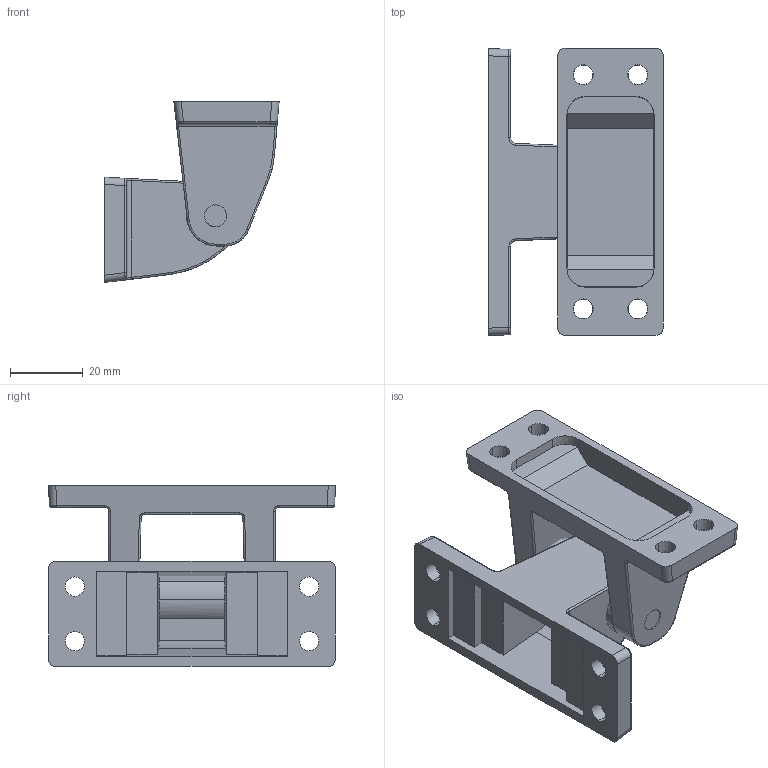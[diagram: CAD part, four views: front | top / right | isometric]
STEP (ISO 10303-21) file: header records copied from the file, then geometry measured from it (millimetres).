
FILE_DESCRIPTION (( 'STEP AP203' ), '1' );
FILE_NAME ('XG02-084.STEP', '2023-12-11T03:28:00', ( '' ), ( '' ), 'SwSTEP 2.0', 'SolidWorks 2020', '' );
FILE_SCHEMA (( 'CONFIG_CONTROL_DESIGN' ));
Length unit declared in the file: millimetre
Products named in the file (5): 錨璃96; XG02-084; dp; hl07-17-1; hl07-107-2
Assembly tree (5 placements, depth 2):
  XG02-084
    hl07-17-1
    hl07-107-2
    dp  x2
    錨璃96
Bounding box: 48 x 79 x 49.85 mm (x, y, z)
Volume: 40622.2 mm3; surface area: 24126.4 mm2
Topology: 5 solids, 5 shells, 214 faces, 516 edges, 318 vertices
Faces by surface type: cylinder 92, plane 58, bspline 36, cone 28
Entity records: 8477 total; most frequent: CARTESIAN_POINT 3534, ORIENTED_EDGE 996, DIRECTION 800, EDGE_CURVE 498, VERTEX_POINT 306, AXIS2_PLACEMENT_3D 283, VECTOR 234, EDGE_LOOP 234
